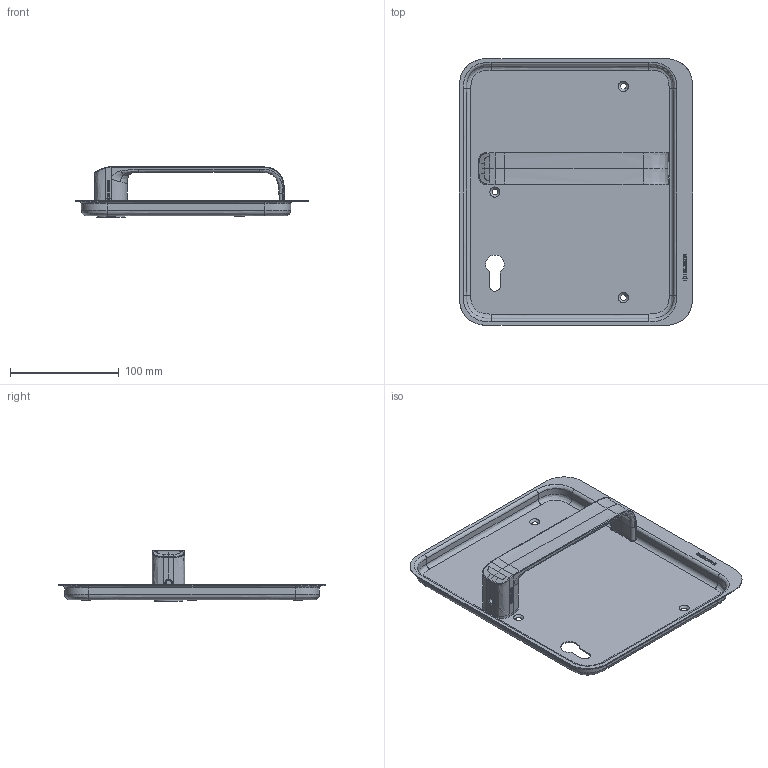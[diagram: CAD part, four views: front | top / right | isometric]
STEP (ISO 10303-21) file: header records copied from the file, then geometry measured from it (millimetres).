
FILE_DESCRIPTION(/* description */ (''),/* implementation_level */ '2;1');
FILE_NAME(/* name */ 'M:\LOC Heusser-Muscheln\Muschel Serie 9\Muschel Serie 9 EN179\S9.13.D4\Heusser-Muschel S9.13.D4.388R.stp',/* time_stamp */ '2020-10-08T08:33:00+02:00',/* author */ ('gm'),/* organization */ (''),/* preprocessor_version */ 'ST-DEVELOPER v16.5',/* originating_system */ 'Autodesk Inventor 2017',/* authorisation */ '');
FILE_SCHEMA (('AUTOMOTIVE_DESIGN { 1 0 10303 214 3 1 1 }'));
Length unit declared in the file: millimetre
Products named in the file (1): S9.13.D4
Bounding box: 214 x 245 x 47.34 mm (x, y, z)
Volume: 112693.8 mm3; surface area: 141512.2 mm2
Topology: 1 solids, 2 shells, 603 faces, 1596 edges, 1041 vertices
Faces by surface type: plane 292, bspline 267, cylinder 26, cone 18
Full cylindrical faces by diameter (mm): 1.7 x2, 4.917 x1, 14.2 x1, 16 x3, 18 x1, 19 x1, 19.1 x1, 23 x1, 23.2 x1, 24 x1, 25 x1, 26 x1, 28 x1, 28.6 x1
Entity records: 29658 total; most frequent: CARTESIAN_POINT 15864, ORIENTED_EDGE 3102, DIRECTION 1915, EDGE_CURVE 1551, VERTEX_POINT 1031, LINE 891, VECTOR 891, EDGE_LOOP 700
